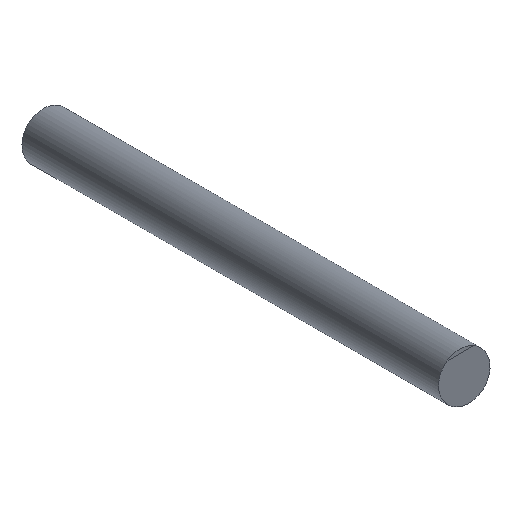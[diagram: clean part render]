
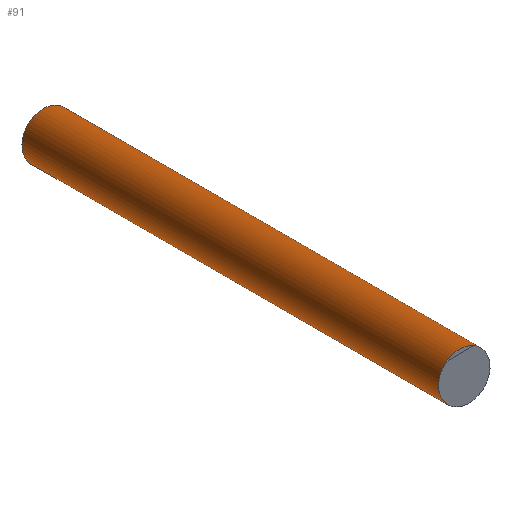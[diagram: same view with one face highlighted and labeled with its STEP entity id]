
A CAD part, isometric view. The second image highlights one B-rep face of the part: STEP entity #91.
In plain terms, the highlighted cylindrical face has radius 12.5 mm (diameter 25 mm), a full revolution.
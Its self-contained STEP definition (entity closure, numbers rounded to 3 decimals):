
#14=FACE_BOUND('',#28,.T.);
#15=CYLINDRICAL_SURFACE('',#117,12.5);
#21=FACE_OUTER_BOUND('',#27,.T.);
#27=EDGE_LOOP('',(#68,#69,#70,#71));
#28=EDGE_LOOP('',(#72,#73));
#29=ELLIPSE('',#107,14.991,12.5);
#30=ELLIPSE('',#109,14.991,12.5);
#31=ELLIPSE('',#110,14.991,12.5);
#32=ELLIPSE('',#112,14.991,12.5);
#33=ELLIPSE('',#114,14.991,12.5);
#34=ELLIPSE('',#116,14.991,12.5);
#41=VERTEX_POINT('',#149);
#42=VERTEX_POINT('',#150);
#43=VERTEX_POINT('',#154);
#44=VERTEX_POINT('',#155);
#45=VERTEX_POINT('',#160);
#46=VERTEX_POINT('',#161);
#48=EDGE_CURVE('',#42,#41,#29,.T.);
#50=EDGE_CURVE('',#41,#43,#30,.T.);
#51=EDGE_CURVE('',#44,#42,#31,.T.);
#53=EDGE_CURVE('',#46,#45,#32,.T.);
#54=EDGE_CURVE('',#43,#44,#33,.T.);
#55=EDGE_CURVE('',#45,#46,#34,.T.);
#68=ORIENTED_EDGE('',*,*,#51,.T.);
#69=ORIENTED_EDGE('',*,*,#48,.T.);
#70=ORIENTED_EDGE('',*,*,#50,.T.);
#71=ORIENTED_EDGE('',*,*,#54,.T.);
#72=ORIENTED_EDGE('',*,*,#53,.T.);
#73=ORIENTED_EDGE('',*,*,#55,.T.);
#91=ADVANCED_FACE('',(#21,#14),#15,.T.);
#107=AXIS2_PLACEMENT_3D('',#152,#123,#124);
#109=AXIS2_PLACEMENT_3D('',#157,#128,#129);
#110=AXIS2_PLACEMENT_3D('',#158,#130,#131);
#112=AXIS2_PLACEMENT_3D('',#163,#135,#136);
#114=AXIS2_PLACEMENT_3D('',#165,#139,#140);
#116=AXIS2_PLACEMENT_3D('',#167,#143,#144);
#117=AXIS2_PLACEMENT_3D('',#168,#145,#146);
#123=DIRECTION('center_axis',(0.,-1.,0.));
#124=DIRECTION('ref_axis',(-0.707,0.,0.707));
#128=DIRECTION('center_axis',(0.,-1.,0.));
#129=DIRECTION('ref_axis',(-0.707,0.,0.707));
#130=DIRECTION('center_axis',(0.,-1.,0.));
#131=DIRECTION('ref_axis',(-0.707,0.,0.707));
#135=DIRECTION('center_axis',(0.,1.,0.));
#136=DIRECTION('ref_axis',(-0.707,0.,0.707));
#139=DIRECTION('center_axis',(0.,-1.,0.));
#140=DIRECTION('ref_axis',(-0.707,0.,0.707));
#143=DIRECTION('center_axis',(0.,1.,0.));
#144=DIRECTION('ref_axis',(-0.707,0.,0.707));
#145=DIRECTION('center_axis',(-0.39,-0.834,0.39));
#146=DIRECTION('ref_axis',(-0.59,0.552,0.59));
#149=CARTESIAN_POINT('',(330.,444.999,56.797));
#150=CARTESIAN_POINT('',(330.,444.999,42.401));
#152=CARTESIAN_POINT('Origin',(318.298,444.999,51.702));
#154=CARTESIAN_POINT('',(313.203,444.999,40.));
#155=CARTESIAN_POINT('',(327.599,444.999,40.));
#157=CARTESIAN_POINT('Origin',(318.298,444.999,51.702));
#158=CARTESIAN_POINT('Origin',(318.298,444.999,51.702));
#160=CARTESIAN_POINT('',(112.401,25.,260.));
#161=CARTESIAN_POINT('',(126.797,25.,260.));
#163=CARTESIAN_POINT('Origin',(121.702,25.,248.298));
#165=CARTESIAN_POINT('Origin',(318.298,444.999,51.702));
#167=CARTESIAN_POINT('Origin',(121.702,25.,248.298));
#168=CARTESIAN_POINT('Origin',(220.,234.999,150.));
